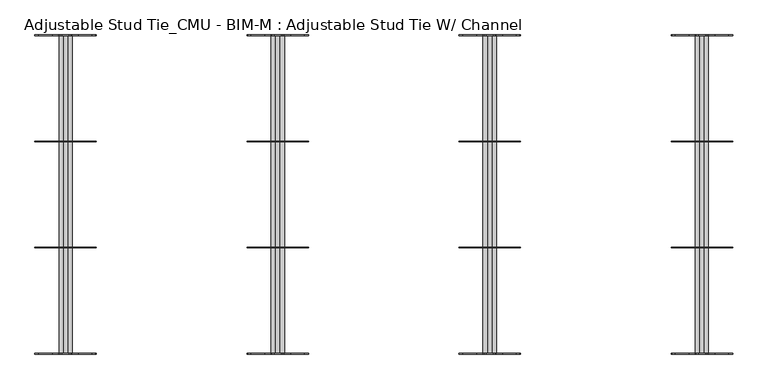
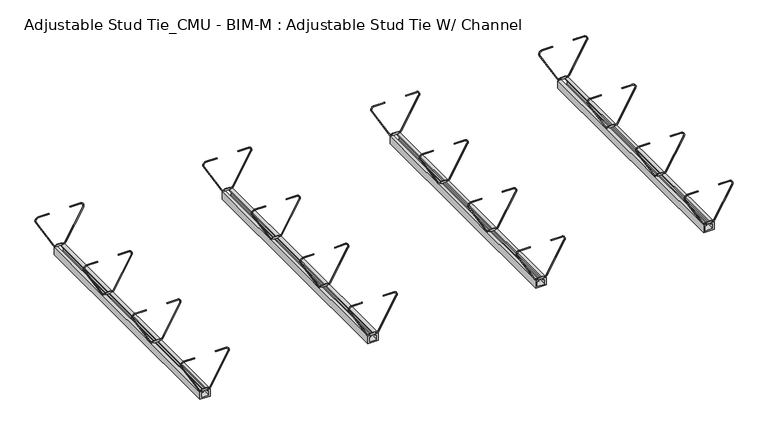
"""IFC4 building model written with IfcOpenShell, lengths in millimetres: proxy geometry, Adjustable Stud Tie_CMU - BIM-M : Adjustable Stud Tie W/ Channel."""

from ifc_helpers import new_model, si_unit, point, frame, frame_2d, origin, place, context, project, spatial, polyline, circle_curve, trimmed, segment, composite_curve, outline, extrude, source, transform, mapped, element, save


def adjustable_stud_tie_cmu_bim_m_adjustable_stud_tie_w_channel_bcef0d92(model_context):
    return source(origin(), model_context, "Body", "SweptSolid", [
        extrude(outline(composite_curve([segment(polyline([(-115.6954737, 2834.1080064), (-115.6954737, 2838.45), (-117.475, 2838.45), (-117.475, 2851.15), (-115.6954737, 2851.15), (-115.6954737, 2855.4919936)]), True, "CONTINUOUS"), segment(trimmed(circle_curve(frame_2d((-111.2621335, 2855.3975194)), 4.4343467), [point((-115.6954737, 2855.4919936))], [point((-113.4793069, 2859.2377763))], False, "CARTESIAN"), True, "CONTINUOUS"), segment(polyline([(-113.4793069, 2859.2377763), (-38.3089403, 2902.6374077)]), True, "CONTINUOUS"), segment(trimmed(circle_curve(frame_2d((-34.2420568, 2895.5933588)), 8.133767), [point((-38.3089403, 2902.6374077))], [point((-26.1197927, 2896.0257847))], False, "CARTESIAN"), True, "CONTINUOUS"), segment(polyline([(-26.1197927, 2896.0257847), (-26.1197927, 2870.2), (-27.7072927, 2870.2), (-27.7072927, 2895.9812638)]), True, "CONTINUOUS"), segment(trimmed(circle_curve(frame_2d((-34.2420568, 2895.5933588)), 6.546267), [point((-27.7072927, 2895.9812638))], [point((-37.5151903, 2901.2625923))], True, "CARTESIAN"), True, "CONTINUOUS"), segment(polyline([(-37.5151903, 2901.2625923), (-112.6855569, 2857.862961)]), True, "CONTINUOUS"), segment(trimmed(circle_curve(frame_2d((-111.2621335, 2855.3975194)), 2.8468467), [point((-112.6855569, 2857.862961))], [point((-114.1079737, 2855.4732143))], True, "CARTESIAN"), True, "CONTINUOUS"), segment(polyline([(-114.1079737, 2855.4732143), (-114.1079737, 2851.15), (-112.7125, 2851.15), (-112.7125, 2838.45), (-114.1079737, 2838.45), (-114.1079737, 2834.1267857)]), True, "CONTINUOUS"), segment(trimmed(circle_curve(frame_2d((-111.2621335, 2834.2024806)), 2.8468467), [point((-114.1079737, 2834.1267857))], [point((-112.6855569, 2831.737039))], True, "CARTESIAN"), True, "CONTINUOUS"), segment(polyline([(-112.6855569, 2831.737039), (-37.5151903, 2788.3374077)]), True, "CONTINUOUS"), segment(trimmed(circle_curve(frame_2d((-34.2420568, 2794.0066412)), 6.546267), [point((-37.5151903, 2788.3374077))], [point((-27.7072927, 2793.6187362))], True, "CARTESIAN"), True, "CONTINUOUS"), segment(polyline([(-27.7072927, 2793.6187362), (-27.7072927, 2819.4), (-26.1197927, 2819.4), (-26.1197927, 2793.5742153)]), True, "CONTINUOUS"), segment(trimmed(circle_curve(frame_2d((-34.2420568, 2794.0066412)), 8.133767), [point((-26.1197927, 2793.5742153))], [point((-38.3089403, 2786.9625923))], False, "CARTESIAN"), True, "CONTINUOUS"), segment(polyline([(-38.3089403, 2786.9625923), (-113.4793069, 2830.3622237)]), True, "CONTINUOUS"), segment(trimmed(circle_curve(frame_2d((-111.2621335, 2834.2024806)), 4.4343467), [point((-113.4793069, 2830.3622237))], [point((-115.6954737, 2834.1080064))], False, "CARTESIAN"), True, "CONTINUOUS")], self_intersect=False)), frame((0.0, 609.6, 0.0), z_axis=(0.0, 1.0, 0.0), x_axis=(0.0, 0.0, 1.0)), (0.0, 0.0, 1.0), 1.5875),
        extrude(outline(composite_curve([segment(polyline([(-115.6954737, 2834.1080064), (-115.6954737, 2838.45), (-117.475, 2838.45), (-117.475, 2851.15), (-115.6954737, 2851.15), (-115.6954737, 2855.4919936)]), True, "CONTINUOUS"), segment(trimmed(circle_curve(frame_2d((-111.2621335, 2855.3975194)), 4.4343467), [point((-115.6954737, 2855.4919936))], [point((-113.4793069, 2859.2377763))], False, "CARTESIAN"), True, "CONTINUOUS"), segment(polyline([(-113.4793069, 2859.2377763), (-38.3089403, 2902.6374077)]), True, "CONTINUOUS"), segment(trimmed(circle_curve(frame_2d((-34.2420568, 2895.5933588)), 8.133767), [point((-38.3089403, 2902.6374077))], [point((-26.1197927, 2896.0257847))], False, "CARTESIAN"), True, "CONTINUOUS"), segment(polyline([(-26.1197927, 2896.0257847), (-26.1197927, 2870.2), (-27.7072927, 2870.2), (-27.7072927, 2895.9812638)]), True, "CONTINUOUS"), segment(trimmed(circle_curve(frame_2d((-34.2420568, 2895.5933588)), 6.546267), [point((-27.7072927, 2895.9812638))], [point((-37.5151903, 2901.2625923))], True, "CARTESIAN"), True, "CONTINUOUS"), segment(polyline([(-37.5151903, 2901.2625923), (-112.6855569, 2857.862961)]), True, "CONTINUOUS"), segment(trimmed(circle_curve(frame_2d((-111.2621335, 2855.3975194)), 2.8468467), [point((-112.6855569, 2857.862961))], [point((-114.1079737, 2855.4732143))], True, "CARTESIAN"), True, "CONTINUOUS"), segment(polyline([(-114.1079737, 2855.4732143), (-114.1079737, 2851.15), (-112.7125, 2851.15), (-112.7125, 2838.45), (-114.1079737, 2838.45), (-114.1079737, 2834.1267857)]), True, "CONTINUOUS"), segment(trimmed(circle_curve(frame_2d((-111.2621335, 2834.2024806)), 2.8468467), [point((-114.1079737, 2834.1267857))], [point((-112.6855569, 2831.737039))], True, "CARTESIAN"), True, "CONTINUOUS"), segment(polyline([(-112.6855569, 2831.737039), (-37.5151903, 2788.3374077)]), True, "CONTINUOUS"), segment(trimmed(circle_curve(frame_2d((-34.2420568, 2794.0066412)), 6.546267), [point((-37.5151903, 2788.3374077))], [point((-27.7072927, 2793.6187362))], True, "CARTESIAN"), True, "CONTINUOUS"), segment(polyline([(-27.7072927, 2793.6187362), (-27.7072927, 2819.4), (-26.1197927, 2819.4), (-26.1197927, 2793.5742153)]), True, "CONTINUOUS"), segment(trimmed(circle_curve(frame_2d((-34.2420568, 2794.0066412)), 8.133767), [point((-26.1197927, 2793.5742153))], [point((-38.3089403, 2786.9625923))], False, "CARTESIAN"), True, "CONTINUOUS"), segment(polyline([(-38.3089403, 2786.9625923), (-113.4793069, 2830.3622237)]), True, "CONTINUOUS"), segment(trimmed(circle_curve(frame_2d((-111.2621335, 2834.2024806)), 4.4343467), [point((-113.4793069, 2830.3622237))], [point((-115.6954737, 2834.1080064))], False, "CARTESIAN"), True, "CONTINUOUS")], self_intersect=False)), frame((0.0, 406.4, 0.0), z_axis=(0.0, 1.0, 0.0), x_axis=(0.0, 0.0, 1.0)), (0.0, 0.0, 1.0), 1.5875),
        extrude(outline(composite_curve([segment(polyline([(-115.6954737, 2834.1080064), (-115.6954737, 2838.45), (-117.475, 2838.45), (-117.475, 2851.15), (-115.6954737, 2851.15), (-115.6954737, 2855.4919936)]), True, "CONTINUOUS"), segment(trimmed(circle_curve(frame_2d((-111.2621335, 2855.3975194)), 4.4343467), [point((-115.6954737, 2855.4919936))], [point((-113.4793069, 2859.2377763))], False, "CARTESIAN"), True, "CONTINUOUS"), segment(polyline([(-113.4793069, 2859.2377763), (-38.3089403, 2902.6374077)]), True, "CONTINUOUS"), segment(trimmed(circle_curve(frame_2d((-34.2420568, 2895.5933588)), 8.133767), [point((-38.3089403, 2902.6374077))], [point((-26.1197927, 2896.0257847))], False, "CARTESIAN"), True, "CONTINUOUS"), segment(polyline([(-26.1197927, 2896.0257847), (-26.1197927, 2870.2), (-27.7072927, 2870.2), (-27.7072927, 2895.9812638)]), True, "CONTINUOUS"), segment(trimmed(circle_curve(frame_2d((-34.2420568, 2895.5933588)), 6.546267), [point((-27.7072927, 2895.9812638))], [point((-37.5151903, 2901.2625923))], True, "CARTESIAN"), True, "CONTINUOUS"), segment(polyline([(-37.5151903, 2901.2625923), (-112.6855569, 2857.862961)]), True, "CONTINUOUS"), segment(trimmed(circle_curve(frame_2d((-111.2621335, 2855.3975194)), 2.8468467), [point((-112.6855569, 2857.862961))], [point((-114.1079737, 2855.4732143))], True, "CARTESIAN"), True, "CONTINUOUS"), segment(polyline([(-114.1079737, 2855.4732143), (-114.1079737, 2851.15), (-112.7125, 2851.15), (-112.7125, 2838.45), (-114.1079737, 2838.45), (-114.1079737, 2834.1267857)]), True, "CONTINUOUS"), segment(trimmed(circle_curve(frame_2d((-111.2621335, 2834.2024806)), 2.8468467), [point((-114.1079737, 2834.1267857))], [point((-112.6855569, 2831.737039))], True, "CARTESIAN"), True, "CONTINUOUS"), segment(polyline([(-112.6855569, 2831.737039), (-37.5151903, 2788.3374077)]), True, "CONTINUOUS"), segment(trimmed(circle_curve(frame_2d((-34.2420568, 2794.0066412)), 6.546267), [point((-37.5151903, 2788.3374077))], [point((-27.7072927, 2793.6187362))], True, "CARTESIAN"), True, "CONTINUOUS"), segment(polyline([(-27.7072927, 2793.6187362), (-27.7072927, 2819.4), (-26.1197927, 2819.4), (-26.1197927, 2793.5742153)]), True, "CONTINUOUS"), segment(trimmed(circle_curve(frame_2d((-34.2420568, 2794.0066412)), 8.133767), [point((-26.1197927, 2793.5742153))], [point((-38.3089403, 2786.9625923))], False, "CARTESIAN"), True, "CONTINUOUS"), segment(polyline([(-38.3089403, 2786.9625923), (-113.4793069, 2830.3622237)]), True, "CONTINUOUS"), segment(trimmed(circle_curve(frame_2d((-111.2621335, 2834.2024806)), 4.4343467), [point((-113.4793069, 2830.3622237))], [point((-115.6954737, 2834.1080064))], False, "CARTESIAN"), True, "CONTINUOUS")], self_intersect=False)), frame((0.0, 203.2, 0.0), z_axis=(0.0, 1.0, 0.0), x_axis=(0.0, 0.0, 1.0)), (0.0, 0.0, 1.0), 1.5875),
        extrude(outline(composite_curve([segment(polyline([(-115.6954737, 2834.1080064), (-115.6954737, 2838.45), (-117.475, 2838.45), (-117.475, 2851.15), (-115.6954737, 2851.15), (-115.6954737, 2855.4919936)]), True, "CONTINUOUS"), segment(trimmed(circle_curve(frame_2d((-111.2621335, 2855.3975194)), 4.4343467), [point((-115.6954737, 2855.4919936))], [point((-113.4793069, 2859.2377763))], False, "CARTESIAN"), True, "CONTINUOUS"), segment(polyline([(-113.4793069, 2859.2377763), (-38.3089403, 2902.6374077)]), True, "CONTINUOUS"), segment(trimmed(circle_curve(frame_2d((-34.2420568, 2895.5933588)), 8.133767), [point((-38.3089403, 2902.6374077))], [point((-26.1197927, 2896.0257847))], False, "CARTESIAN"), True, "CONTINUOUS"), segment(polyline([(-26.1197927, 2896.0257847), (-26.1197927, 2870.2), (-27.7072927, 2870.2), (-27.7072927, 2895.9812638)]), True, "CONTINUOUS"), segment(trimmed(circle_curve(frame_2d((-34.2420568, 2895.5933588)), 6.546267), [point((-27.7072927, 2895.9812638))], [point((-37.5151903, 2901.2625923))], True, "CARTESIAN"), True, "CONTINUOUS"), segment(polyline([(-37.5151903, 2901.2625923), (-112.6855569, 2857.862961)]), True, "CONTINUOUS"), segment(trimmed(circle_curve(frame_2d((-111.2621335, 2855.3975194)), 2.8468467), [point((-112.6855569, 2857.862961))], [point((-114.1079737, 2855.4732143))], True, "CARTESIAN"), True, "CONTINUOUS"), segment(polyline([(-114.1079737, 2855.4732143), (-114.1079737, 2851.15), (-112.7125, 2851.15), (-112.7125, 2838.45), (-114.1079737, 2838.45), (-114.1079737, 2834.1267857)]), True, "CONTINUOUS"), segment(trimmed(circle_curve(frame_2d((-111.2621335, 2834.2024806)), 2.8468467), [point((-114.1079737, 2834.1267857))], [point((-112.6855569, 2831.737039))], True, "CARTESIAN"), True, "CONTINUOUS"), segment(polyline([(-112.6855569, 2831.737039), (-37.5151903, 2788.3374077)]), True, "CONTINUOUS"), segment(trimmed(circle_curve(frame_2d((-34.2420568, 2794.0066412)), 6.546267), [point((-37.5151903, 2788.3374077))], [point((-27.7072927, 2793.6187362))], True, "CARTESIAN"), True, "CONTINUOUS"), segment(polyline([(-27.7072927, 2793.6187362), (-27.7072927, 2819.4), (-26.1197927, 2819.4), (-26.1197927, 2793.5742153)]), True, "CONTINUOUS"), segment(trimmed(circle_curve(frame_2d((-34.2420568, 2794.0066412)), 8.133767), [point((-26.1197927, 2793.5742153))], [point((-38.3089403, 2786.9625923))], False, "CARTESIAN"), True, "CONTINUOUS"), segment(polyline([(-38.3089403, 2786.9625923), (-113.4793069, 2830.3622237)]), True, "CONTINUOUS"), segment(trimmed(circle_curve(frame_2d((-111.2621335, 2834.2024806)), 4.4343467), [point((-113.4793069, 2830.3622237))], [point((-115.6954737, 2834.1080064))], False, "CARTESIAN"), True, "CONTINUOUS")], self_intersect=False)), frame((0.0, 0.0, 0.0), z_axis=(0.0, 1.0, 0.0), x_axis=(0.0, 0.0, 1.0)), (0.0, 0.0, 1.0), 1.5875),
        extrude(outline(polyline([(-136.525, 2857.5), (-117.475, 2857.5), (-117.475, 2849.5669306), (-120.65, 2849.5669306), (-120.65, 2854.325), (-133.35, 2854.325), (-133.35, 2835.275), (-120.65, 2835.275), (-120.65, 2840.0330694), (-117.475, 2840.0330694), (-117.475, 2832.1), (-136.525, 2832.1), (-136.525, 2857.5)])), frame((0.0, 0.0, 0.0), z_axis=(0.0, 1.0, 0.0), x_axis=(0.0, 0.0, 1.0)), (0.0, 0.0, 1.0), 610.39375),
        extrude(outline(composite_curve([segment(polyline([(-115.6954737, 2427.7080064), (-115.6954737, 2432.05), (-117.475, 2432.05), (-117.475, 2444.75), (-115.6954737, 2444.75), (-115.6954737, 2449.0919936)]), True, "CONTINUOUS"), segment(trimmed(circle_curve(frame_2d((-111.2621335, 2448.9975194)), 4.4343467), [point((-115.6954737, 2449.0919936))], [point((-113.4793069, 2452.8377763))], False, "CARTESIAN"), True, "CONTINUOUS"), segment(polyline([(-113.4793069, 2452.8377763), (-38.3089403, 2496.2374077)]), True, "CONTINUOUS"), segment(trimmed(circle_curve(frame_2d((-34.2420568, 2489.1933588)), 8.133767), [point((-38.3089403, 2496.2374077))], [point((-26.1197927, 2489.6257847))], False, "CARTESIAN"), True, "CONTINUOUS"), segment(polyline([(-26.1197927, 2489.6257847), (-26.1197927, 2463.8), (-27.7072927, 2463.8), (-27.7072927, 2489.5812638)]), True, "CONTINUOUS"), segment(trimmed(circle_curve(frame_2d((-34.2420568, 2489.1933588)), 6.546267), [point((-27.7072927, 2489.5812638))], [point((-37.5151903, 2494.8625923))], True, "CARTESIAN"), True, "CONTINUOUS"), segment(polyline([(-37.5151903, 2494.8625923), (-112.6855569, 2451.462961)]), True, "CONTINUOUS"), segment(trimmed(circle_curve(frame_2d((-111.2621335, 2448.9975194)), 2.8468467), [point((-112.6855569, 2451.462961))], [point((-114.1079737, 2449.0732143))], True, "CARTESIAN"), True, "CONTINUOUS"), segment(polyline([(-114.1079737, 2449.0732143), (-114.1079737, 2444.75), (-112.7125, 2444.75), (-112.7125, 2432.05), (-114.1079737, 2432.05), (-114.1079737, 2427.7267857)]), True, "CONTINUOUS"), segment(trimmed(circle_curve(frame_2d((-111.2621335, 2427.8024806)), 2.8468467), [point((-114.1079737, 2427.7267857))], [point((-112.6855569, 2425.337039))], True, "CARTESIAN"), True, "CONTINUOUS"), segment(polyline([(-112.6855569, 2425.337039), (-37.5151903, 2381.9374077)]), True, "CONTINUOUS"), segment(trimmed(circle_curve(frame_2d((-34.2420568, 2387.6066412)), 6.546267), [point((-37.5151903, 2381.9374077))], [point((-27.7072927, 2387.2187362))], True, "CARTESIAN"), True, "CONTINUOUS"), segment(polyline([(-27.7072927, 2387.2187362), (-27.7072927, 2413.0), (-26.1197927, 2413.0), (-26.1197927, 2387.1742153)]), True, "CONTINUOUS"), segment(trimmed(circle_curve(frame_2d((-34.2420568, 2387.6066412)), 8.133767), [point((-26.1197927, 2387.1742153))], [point((-38.3089403, 2380.5625923))], False, "CARTESIAN"), True, "CONTINUOUS"), segment(polyline([(-38.3089403, 2380.5625923), (-113.4793069, 2423.9622237)]), True, "CONTINUOUS"), segment(trimmed(circle_curve(frame_2d((-111.2621335, 2427.8024806)), 4.4343467), [point((-113.4793069, 2423.9622237))], [point((-115.6954737, 2427.7080064))], False, "CARTESIAN"), True, "CONTINUOUS")], self_intersect=False)), frame((0.0, 609.6, 0.0), z_axis=(0.0, 1.0, 0.0), x_axis=(0.0, 0.0, 1.0)), (0.0, 0.0, 1.0), 1.5875),
        extrude(outline(composite_curve([segment(polyline([(-115.6954737, 2427.7080064), (-115.6954737, 2432.05), (-117.475, 2432.05), (-117.475, 2444.75), (-115.6954737, 2444.75), (-115.6954737, 2449.0919936)]), True, "CONTINUOUS"), segment(trimmed(circle_curve(frame_2d((-111.2621335, 2448.9975194)), 4.4343467), [point((-115.6954737, 2449.0919936))], [point((-113.4793069, 2452.8377763))], False, "CARTESIAN"), True, "CONTINUOUS"), segment(polyline([(-113.4793069, 2452.8377763), (-38.3089403, 2496.2374077)]), True, "CONTINUOUS"), segment(trimmed(circle_curve(frame_2d((-34.2420568, 2489.1933588)), 8.133767), [point((-38.3089403, 2496.2374077))], [point((-26.1197927, 2489.6257847))], False, "CARTESIAN"), True, "CONTINUOUS"), segment(polyline([(-26.1197927, 2489.6257847), (-26.1197927, 2463.8), (-27.7072927, 2463.8), (-27.7072927, 2489.5812638)]), True, "CONTINUOUS"), segment(trimmed(circle_curve(frame_2d((-34.2420568, 2489.1933588)), 6.546267), [point((-27.7072927, 2489.5812638))], [point((-37.5151903, 2494.8625923))], True, "CARTESIAN"), True, "CONTINUOUS"), segment(polyline([(-37.5151903, 2494.8625923), (-112.6855569, 2451.462961)]), True, "CONTINUOUS"), segment(trimmed(circle_curve(frame_2d((-111.2621335, 2448.9975194)), 2.8468467), [point((-112.6855569, 2451.462961))], [point((-114.1079737, 2449.0732143))], True, "CARTESIAN"), True, "CONTINUOUS"), segment(polyline([(-114.1079737, 2449.0732143), (-114.1079737, 2444.75), (-112.7125, 2444.75), (-112.7125, 2432.05), (-114.1079737, 2432.05), (-114.1079737, 2427.7267857)]), True, "CONTINUOUS"), segment(trimmed(circle_curve(frame_2d((-111.2621335, 2427.8024806)), 2.8468467), [point((-114.1079737, 2427.7267857))], [point((-112.6855569, 2425.337039))], True, "CARTESIAN"), True, "CONTINUOUS"), segment(polyline([(-112.6855569, 2425.337039), (-37.5151903, 2381.9374077)]), True, "CONTINUOUS"), segment(trimmed(circle_curve(frame_2d((-34.2420568, 2387.6066412)), 6.546267), [point((-37.5151903, 2381.9374077))], [point((-27.7072927, 2387.2187362))], True, "CARTESIAN"), True, "CONTINUOUS"), segment(polyline([(-27.7072927, 2387.2187362), (-27.7072927, 2413.0), (-26.1197927, 2413.0), (-26.1197927, 2387.1742153)]), True, "CONTINUOUS"), segment(trimmed(circle_curve(frame_2d((-34.2420568, 2387.6066412)), 8.133767), [point((-26.1197927, 2387.1742153))], [point((-38.3089403, 2380.5625923))], False, "CARTESIAN"), True, "CONTINUOUS"), segment(polyline([(-38.3089403, 2380.5625923), (-113.4793069, 2423.9622237)]), True, "CONTINUOUS"), segment(trimmed(circle_curve(frame_2d((-111.2621335, 2427.8024806)), 4.4343467), [point((-113.4793069, 2423.9622237))], [point((-115.6954737, 2427.7080064))], False, "CARTESIAN"), True, "CONTINUOUS")], self_intersect=False)), frame((0.0, 406.4, 0.0), z_axis=(0.0, 1.0, 0.0), x_axis=(0.0, 0.0, 1.0)), (0.0, 0.0, 1.0), 1.5875),
        extrude(outline(composite_curve([segment(polyline([(-115.6954737, 2427.7080064), (-115.6954737, 2432.05), (-117.475, 2432.05), (-117.475, 2444.75), (-115.6954737, 2444.75), (-115.6954737, 2449.0919936)]), True, "CONTINUOUS"), segment(trimmed(circle_curve(frame_2d((-111.2621335, 2448.9975194)), 4.4343467), [point((-115.6954737, 2449.0919936))], [point((-113.4793069, 2452.8377763))], False, "CARTESIAN"), True, "CONTINUOUS"), segment(polyline([(-113.4793069, 2452.8377763), (-38.3089403, 2496.2374077)]), True, "CONTINUOUS"), segment(trimmed(circle_curve(frame_2d((-34.2420568, 2489.1933588)), 8.133767), [point((-38.3089403, 2496.2374077))], [point((-26.1197927, 2489.6257847))], False, "CARTESIAN"), True, "CONTINUOUS"), segment(polyline([(-26.1197927, 2489.6257847), (-26.1197927, 2463.8), (-27.7072927, 2463.8), (-27.7072927, 2489.5812638)]), True, "CONTINUOUS"), segment(trimmed(circle_curve(frame_2d((-34.2420568, 2489.1933588)), 6.546267), [point((-27.7072927, 2489.5812638))], [point((-37.5151903, 2494.8625923))], True, "CARTESIAN"), True, "CONTINUOUS"), segment(polyline([(-37.5151903, 2494.8625923), (-112.6855569, 2451.462961)]), True, "CONTINUOUS"), segment(trimmed(circle_curve(frame_2d((-111.2621335, 2448.9975194)), 2.8468467), [point((-112.6855569, 2451.462961))], [point((-114.1079737, 2449.0732143))], True, "CARTESIAN"), True, "CONTINUOUS"), segment(polyline([(-114.1079737, 2449.0732143), (-114.1079737, 2444.75), (-112.7125, 2444.75), (-112.7125, 2432.05), (-114.1079737, 2432.05), (-114.1079737, 2427.7267857)]), True, "CONTINUOUS"), segment(trimmed(circle_curve(frame_2d((-111.2621335, 2427.8024806)), 2.8468467), [point((-114.1079737, 2427.7267857))], [point((-112.6855569, 2425.337039))], True, "CARTESIAN"), True, "CONTINUOUS"), segment(polyline([(-112.6855569, 2425.337039), (-37.5151903, 2381.9374077)]), True, "CONTINUOUS"), segment(trimmed(circle_curve(frame_2d((-34.2420568, 2387.6066412)), 6.546267), [point((-37.5151903, 2381.9374077))], [point((-27.7072927, 2387.2187362))], True, "CARTESIAN"), True, "CONTINUOUS"), segment(polyline([(-27.7072927, 2387.2187362), (-27.7072927, 2413.0), (-26.1197927, 2413.0), (-26.1197927, 2387.1742153)]), True, "CONTINUOUS"), segment(trimmed(circle_curve(frame_2d((-34.2420568, 2387.6066412)), 8.133767), [point((-26.1197927, 2387.1742153))], [point((-38.3089403, 2380.5625923))], False, "CARTESIAN"), True, "CONTINUOUS"), segment(polyline([(-38.3089403, 2380.5625923), (-113.4793069, 2423.9622237)]), True, "CONTINUOUS"), segment(trimmed(circle_curve(frame_2d((-111.2621335, 2427.8024806)), 4.4343467), [point((-113.4793069, 2423.9622237))], [point((-115.6954737, 2427.7080064))], False, "CARTESIAN"), True, "CONTINUOUS")], self_intersect=False)), frame((0.0, 203.2, 0.0), z_axis=(0.0, 1.0, 0.0), x_axis=(0.0, 0.0, 1.0)), (0.0, 0.0, 1.0), 1.5875),
        extrude(outline(composite_curve([segment(polyline([(-115.6954737, 2427.7080064), (-115.6954737, 2432.05), (-117.475, 2432.05), (-117.475, 2444.75), (-115.6954737, 2444.75), (-115.6954737, 2449.0919936)]), True, "CONTINUOUS"), segment(trimmed(circle_curve(frame_2d((-111.2621335, 2448.9975194)), 4.4343467), [point((-115.6954737, 2449.0919936))], [point((-113.4793069, 2452.8377763))], False, "CARTESIAN"), True, "CONTINUOUS"), segment(polyline([(-113.4793069, 2452.8377763), (-38.3089403, 2496.2374077)]), True, "CONTINUOUS"), segment(trimmed(circle_curve(frame_2d((-34.2420568, 2489.1933588)), 8.133767), [point((-38.3089403, 2496.2374077))], [point((-26.1197927, 2489.6257847))], False, "CARTESIAN"), True, "CONTINUOUS"), segment(polyline([(-26.1197927, 2489.6257847), (-26.1197927, 2463.8), (-27.7072927, 2463.8), (-27.7072927, 2489.5812638)]), True, "CONTINUOUS"), segment(trimmed(circle_curve(frame_2d((-34.2420568, 2489.1933588)), 6.546267), [point((-27.7072927, 2489.5812638))], [point((-37.5151903, 2494.8625923))], True, "CARTESIAN"), True, "CONTINUOUS"), segment(polyline([(-37.5151903, 2494.8625923), (-112.6855569, 2451.462961)]), True, "CONTINUOUS"), segment(trimmed(circle_curve(frame_2d((-111.2621335, 2448.9975194)), 2.8468467), [point((-112.6855569, 2451.462961))], [point((-114.1079737, 2449.0732143))], True, "CARTESIAN"), True, "CONTINUOUS"), segment(polyline([(-114.1079737, 2449.0732143), (-114.1079737, 2444.75), (-112.7125, 2444.75), (-112.7125, 2432.05), (-114.1079737, 2432.05), (-114.1079737, 2427.7267857)]), True, "CONTINUOUS"), segment(trimmed(circle_curve(frame_2d((-111.2621335, 2427.8024806)), 2.8468467), [point((-114.1079737, 2427.7267857))], [point((-112.6855569, 2425.337039))], True, "CARTESIAN"), True, "CONTINUOUS"), segment(polyline([(-112.6855569, 2425.337039), (-37.5151903, 2381.9374077)]), True, "CONTINUOUS"), segment(trimmed(circle_curve(frame_2d((-34.2420568, 2387.6066412)), 6.546267), [point((-37.5151903, 2381.9374077))], [point((-27.7072927, 2387.2187362))], True, "CARTESIAN"), True, "CONTINUOUS"), segment(polyline([(-27.7072927, 2387.2187362), (-27.7072927, 2413.0), (-26.1197927, 2413.0), (-26.1197927, 2387.1742153)]), True, "CONTINUOUS"), segment(trimmed(circle_curve(frame_2d((-34.2420568, 2387.6066412)), 8.133767), [point((-26.1197927, 2387.1742153))], [point((-38.3089403, 2380.5625923))], False, "CARTESIAN"), True, "CONTINUOUS"), segment(polyline([(-38.3089403, 2380.5625923), (-113.4793069, 2423.9622237)]), True, "CONTINUOUS"), segment(trimmed(circle_curve(frame_2d((-111.2621335, 2427.8024806)), 4.4343467), [point((-113.4793069, 2423.9622237))], [point((-115.6954737, 2427.7080064))], False, "CARTESIAN"), True, "CONTINUOUS")], self_intersect=False)), frame((0.0, 0.0, 0.0), z_axis=(0.0, 1.0, 0.0), x_axis=(0.0, 0.0, 1.0)), (0.0, 0.0, 1.0), 1.5875),
        extrude(outline(polyline([(-136.525, 2451.1), (-117.475, 2451.1), (-117.475, 2443.1669306), (-120.65, 2443.1669306), (-120.65, 2447.925), (-133.35, 2447.925), (-133.35, 2428.875), (-120.65, 2428.875), (-120.65, 2433.6330694), (-117.475, 2433.6330694), (-117.475, 2425.7), (-136.525, 2425.7), (-136.525, 2451.1)])), frame((0.0, 0.0, 0.0), z_axis=(0.0, 1.0, 0.0), x_axis=(0.0, 0.0, 1.0)), (0.0, 0.0, 1.0), 610.39375),
        extrude(outline(composite_curve([segment(polyline([(-115.6954737, 2021.3080064), (-115.6954737, 2025.65), (-117.475, 2025.65), (-117.475, 2038.35), (-115.6954737, 2038.35), (-115.6954737, 2042.6919936)]), True, "CONTINUOUS"), segment(trimmed(circle_curve(frame_2d((-111.2621335, 2042.5975194)), 4.4343467), [point((-115.6954737, 2042.6919936))], [point((-113.4793069, 2046.4377763))], False, "CARTESIAN"), True, "CONTINUOUS"), segment(polyline([(-113.4793069, 2046.4377763), (-38.3089403, 2089.8374077)]), True, "CONTINUOUS"), segment(trimmed(circle_curve(frame_2d((-34.2420568, 2082.7933588)), 8.133767), [point((-38.3089403, 2089.8374077))], [point((-26.1197927, 2083.2257847))], False, "CARTESIAN"), True, "CONTINUOUS"), segment(polyline([(-26.1197927, 2083.2257847), (-26.1197927, 2057.4), (-27.7072927, 2057.4), (-27.7072927, 2083.1812638)]), True, "CONTINUOUS"), segment(trimmed(circle_curve(frame_2d((-34.2420568, 2082.7933588)), 6.546267), [point((-27.7072927, 2083.1812638))], [point((-37.5151903, 2088.4625923))], True, "CARTESIAN"), True, "CONTINUOUS"), segment(polyline([(-37.5151903, 2088.4625923), (-112.6855569, 2045.062961)]), True, "CONTINUOUS"), segment(trimmed(circle_curve(frame_2d((-111.2621335, 2042.5975194)), 2.8468467), [point((-112.6855569, 2045.062961))], [point((-114.1079737, 2042.6732143))], True, "CARTESIAN"), True, "CONTINUOUS"), segment(polyline([(-114.1079737, 2042.6732143), (-114.1079737, 2038.35), (-112.7125, 2038.35), (-112.7125, 2025.65), (-114.1079737, 2025.65), (-114.1079737, 2021.3267857)]), True, "CONTINUOUS"), segment(trimmed(circle_curve(frame_2d((-111.2621335, 2021.4024806)), 2.8468467), [point((-114.1079737, 2021.3267857))], [point((-112.6855569, 2018.937039))], True, "CARTESIAN"), True, "CONTINUOUS"), segment(polyline([(-112.6855569, 2018.937039), (-37.5151903, 1975.5374077)]), True, "CONTINUOUS"), segment(trimmed(circle_curve(frame_2d((-34.2420568, 1981.2066412)), 6.546267), [point((-37.5151903, 1975.5374077))], [point((-27.7072927, 1980.8187362))], True, "CARTESIAN"), True, "CONTINUOUS"), segment(polyline([(-27.7072927, 1980.8187362), (-27.7072927, 2006.6), (-26.1197927, 2006.6), (-26.1197927, 1980.7742153)]), True, "CONTINUOUS"), segment(trimmed(circle_curve(frame_2d((-34.2420568, 1981.2066412)), 8.133767), [point((-26.1197927, 1980.7742153))], [point((-38.3089403, 1974.1625923))], False, "CARTESIAN"), True, "CONTINUOUS"), segment(polyline([(-38.3089403, 1974.1625923), (-113.4793069, 2017.5622237)]), True, "CONTINUOUS"), segment(trimmed(circle_curve(frame_2d((-111.2621335, 2021.4024806)), 4.4343467), [point((-113.4793069, 2017.5622237))], [point((-115.6954737, 2021.3080064))], False, "CARTESIAN"), True, "CONTINUOUS")], self_intersect=False)), frame((0.0, 609.6, 0.0), z_axis=(0.0, 1.0, 0.0), x_axis=(0.0, 0.0, 1.0)), (0.0, 0.0, 1.0), 1.5875),
        extrude(outline(composite_curve([segment(polyline([(-115.6954737, 2021.3080064), (-115.6954737, 2025.65), (-117.475, 2025.65), (-117.475, 2038.35), (-115.6954737, 2038.35), (-115.6954737, 2042.6919936)]), True, "CONTINUOUS"), segment(trimmed(circle_curve(frame_2d((-111.2621335, 2042.5975194)), 4.4343467), [point((-115.6954737, 2042.6919936))], [point((-113.4793069, 2046.4377763))], False, "CARTESIAN"), True, "CONTINUOUS"), segment(polyline([(-113.4793069, 2046.4377763), (-38.3089403, 2089.8374077)]), True, "CONTINUOUS"), segment(trimmed(circle_curve(frame_2d((-34.2420568, 2082.7933588)), 8.133767), [point((-38.3089403, 2089.8374077))], [point((-26.1197927, 2083.2257847))], False, "CARTESIAN"), True, "CONTINUOUS"), segment(polyline([(-26.1197927, 2083.2257847), (-26.1197927, 2057.4), (-27.7072927, 2057.4), (-27.7072927, 2083.1812638)]), True, "CONTINUOUS"), segment(trimmed(circle_curve(frame_2d((-34.2420568, 2082.7933588)), 6.546267), [point((-27.7072927, 2083.1812638))], [point((-37.5151903, 2088.4625923))], True, "CARTESIAN"), True, "CONTINUOUS"), segment(polyline([(-37.5151903, 2088.4625923), (-112.6855569, 2045.062961)]), True, "CONTINUOUS"), segment(trimmed(circle_curve(frame_2d((-111.2621335, 2042.5975194)), 2.8468467), [point((-112.6855569, 2045.062961))], [point((-114.1079737, 2042.6732143))], True, "CARTESIAN"), True, "CONTINUOUS"), segment(polyline([(-114.1079737, 2042.6732143), (-114.1079737, 2038.35), (-112.7125, 2038.35), (-112.7125, 2025.65), (-114.1079737, 2025.65), (-114.1079737, 2021.3267857)]), True, "CONTINUOUS"), segment(trimmed(circle_curve(frame_2d((-111.2621335, 2021.4024806)), 2.8468467), [point((-114.1079737, 2021.3267857))], [point((-112.6855569, 2018.937039))], True, "CARTESIAN"), True, "CONTINUOUS"), segment(polyline([(-112.6855569, 2018.937039), (-37.5151903, 1975.5374077)]), True, "CONTINUOUS"), segment(trimmed(circle_curve(frame_2d((-34.2420568, 1981.2066412)), 6.546267), [point((-37.5151903, 1975.5374077))], [point((-27.7072927, 1980.8187362))], True, "CARTESIAN"), True, "CONTINUOUS"), segment(polyline([(-27.7072927, 1980.8187362), (-27.7072927, 2006.6), (-26.1197927, 2006.6), (-26.1197927, 1980.7742153)]), True, "CONTINUOUS"), segment(trimmed(circle_curve(frame_2d((-34.2420568, 1981.2066412)), 8.133767), [point((-26.1197927, 1980.7742153))], [point((-38.3089403, 1974.1625923))], False, "CARTESIAN"), True, "CONTINUOUS"), segment(polyline([(-38.3089403, 1974.1625923), (-113.4793069, 2017.5622237)]), True, "CONTINUOUS"), segment(trimmed(circle_curve(frame_2d((-111.2621335, 2021.4024806)), 4.4343467), [point((-113.4793069, 2017.5622237))], [point((-115.6954737, 2021.3080064))], False, "CARTESIAN"), True, "CONTINUOUS")], self_intersect=False)), frame((0.0, 406.4, 0.0), z_axis=(0.0, 1.0, 0.0), x_axis=(0.0, 0.0, 1.0)), (0.0, 0.0, 1.0), 1.5875),
        extrude(outline(composite_curve([segment(polyline([(-115.6954737, 2021.3080064), (-115.6954737, 2025.65), (-117.475, 2025.65), (-117.475, 2038.35), (-115.6954737, 2038.35), (-115.6954737, 2042.6919936)]), True, "CONTINUOUS"), segment(trimmed(circle_curve(frame_2d((-111.2621335, 2042.5975194)), 4.4343467), [point((-115.6954737, 2042.6919936))], [point((-113.4793069, 2046.4377763))], False, "CARTESIAN"), True, "CONTINUOUS"), segment(polyline([(-113.4793069, 2046.4377763), (-38.3089403, 2089.8374077)]), True, "CONTINUOUS"), segment(trimmed(circle_curve(frame_2d((-34.2420568, 2082.7933588)), 8.133767), [point((-38.3089403, 2089.8374077))], [point((-26.1197927, 2083.2257847))], False, "CARTESIAN"), True, "CONTINUOUS"), segment(polyline([(-26.1197927, 2083.2257847), (-26.1197927, 2057.4), (-27.7072927, 2057.4), (-27.7072927, 2083.1812638)]), True, "CONTINUOUS"), segment(trimmed(circle_curve(frame_2d((-34.2420568, 2082.7933588)), 6.546267), [point((-27.7072927, 2083.1812638))], [point((-37.5151903, 2088.4625923))], True, "CARTESIAN"), True, "CONTINUOUS"), segment(polyline([(-37.5151903, 2088.4625923), (-112.6855569, 2045.062961)]), True, "CONTINUOUS"), segment(trimmed(circle_curve(frame_2d((-111.2621335, 2042.5975194)), 2.8468467), [point((-112.6855569, 2045.062961))], [point((-114.1079737, 2042.6732143))], True, "CARTESIAN"), True, "CONTINUOUS"), segment(polyline([(-114.1079737, 2042.6732143), (-114.1079737, 2038.35), (-112.7125, 2038.35), (-112.7125, 2025.65), (-114.1079737, 2025.65), (-114.1079737, 2021.3267857)]), True, "CONTINUOUS"), segment(trimmed(circle_curve(frame_2d((-111.2621335, 2021.4024806)), 2.8468467), [point((-114.1079737, 2021.3267857))], [point((-112.6855569, 2018.937039))], True, "CARTESIAN"), True, "CONTINUOUS"), segment(polyline([(-112.6855569, 2018.937039), (-37.5151903, 1975.5374077)]), True, "CONTINUOUS"), segment(trimmed(circle_curve(frame_2d((-34.2420568, 1981.2066412)), 6.546267), [point((-37.5151903, 1975.5374077))], [point((-27.7072927, 1980.8187362))], True, "CARTESIAN"), True, "CONTINUOUS"), segment(polyline([(-27.7072927, 1980.8187362), (-27.7072927, 2006.6), (-26.1197927, 2006.6), (-26.1197927, 1980.7742153)]), True, "CONTINUOUS"), segment(trimmed(circle_curve(frame_2d((-34.2420568, 1981.2066412)), 8.133767), [point((-26.1197927, 1980.7742153))], [point((-38.3089403, 1974.1625923))], False, "CARTESIAN"), True, "CONTINUOUS"), segment(polyline([(-38.3089403, 1974.1625923), (-113.4793069, 2017.5622237)]), True, "CONTINUOUS"), segment(trimmed(circle_curve(frame_2d((-111.2621335, 2021.4024806)), 4.4343467), [point((-113.4793069, 2017.5622237))], [point((-115.6954737, 2021.3080064))], False, "CARTESIAN"), True, "CONTINUOUS")], self_intersect=False)), frame((0.0, 203.2, 0.0), z_axis=(0.0, 1.0, 0.0), x_axis=(0.0, 0.0, 1.0)), (0.0, 0.0, 1.0), 1.5875),
        extrude(outline(composite_curve([segment(polyline([(-115.6954737, 2021.3080064), (-115.6954737, 2025.65), (-117.475, 2025.65), (-117.475, 2038.35), (-115.6954737, 2038.35), (-115.6954737, 2042.6919936)]), True, "CONTINUOUS"), segment(trimmed(circle_curve(frame_2d((-111.2621335, 2042.5975194)), 4.4343467), [point((-115.6954737, 2042.6919936))], [point((-113.4793069, 2046.4377763))], False, "CARTESIAN"), True, "CONTINUOUS"), segment(polyline([(-113.4793069, 2046.4377763), (-38.3089403, 2089.8374077)]), True, "CONTINUOUS"), segment(trimmed(circle_curve(frame_2d((-34.2420568, 2082.7933588)), 8.133767), [point((-38.3089403, 2089.8374077))], [point((-26.1197927, 2083.2257847))], False, "CARTESIAN"), True, "CONTINUOUS"), segment(polyline([(-26.1197927, 2083.2257847), (-26.1197927, 2057.4), (-27.7072927, 2057.4), (-27.7072927, 2083.1812638)]), True, "CONTINUOUS"), segment(trimmed(circle_curve(frame_2d((-34.2420568, 2082.7933588)), 6.546267), [point((-27.7072927, 2083.1812638))], [point((-37.5151903, 2088.4625923))], True, "CARTESIAN"), True, "CONTINUOUS"), segment(polyline([(-37.5151903, 2088.4625923), (-112.6855569, 2045.062961)]), True, "CONTINUOUS"), segment(trimmed(circle_curve(frame_2d((-111.2621335, 2042.5975194)), 2.8468467), [point((-112.6855569, 2045.062961))], [point((-114.1079737, 2042.6732143))], True, "CARTESIAN"), True, "CONTINUOUS"), segment(polyline([(-114.1079737, 2042.6732143), (-114.1079737, 2038.35), (-112.7125, 2038.35), (-112.7125, 2025.65), (-114.1079737, 2025.65), (-114.1079737, 2021.3267857)]), True, "CONTINUOUS"), segment(trimmed(circle_curve(frame_2d((-111.2621335, 2021.4024806)), 2.8468467), [point((-114.1079737, 2021.3267857))], [point((-112.6855569, 2018.937039))], True, "CARTESIAN"), True, "CONTINUOUS"), segment(polyline([(-112.6855569, 2018.937039), (-37.5151903, 1975.5374077)]), True, "CONTINUOUS"), segment(trimmed(circle_curve(frame_2d((-34.2420568, 1981.2066412)), 6.546267), [point((-37.5151903, 1975.5374077))], [point((-27.7072927, 1980.8187362))], True, "CARTESIAN"), True, "CONTINUOUS"), segment(polyline([(-27.7072927, 1980.8187362), (-27.7072927, 2006.6), (-26.1197927, 2006.6), (-26.1197927, 1980.7742153)]), True, "CONTINUOUS"), segment(trimmed(circle_curve(frame_2d((-34.2420568, 1981.2066412)), 8.133767), [point((-26.1197927, 1980.7742153))], [point((-38.3089403, 1974.1625923))], False, "CARTESIAN"), True, "CONTINUOUS"), segment(polyline([(-38.3089403, 1974.1625923), (-113.4793069, 2017.5622237)]), True, "CONTINUOUS"), segment(trimmed(circle_curve(frame_2d((-111.2621335, 2021.4024806)), 4.4343467), [point((-113.4793069, 2017.5622237))], [point((-115.6954737, 2021.3080064))], False, "CARTESIAN"), True, "CONTINUOUS")], self_intersect=False)), frame((0.0, 0.0, 0.0), z_axis=(0.0, 1.0, 0.0), x_axis=(0.0, 0.0, 1.0)), (0.0, 0.0, 1.0), 1.5875),
        extrude(outline(polyline([(-136.525, 2044.7), (-117.475, 2044.7), (-117.475, 2036.7669306), (-120.65, 2036.7669306), (-120.65, 2041.525), (-133.35, 2041.525), (-133.35, 2022.475), (-120.65, 2022.475), (-120.65, 2027.2330694), (-117.475, 2027.2330694), (-117.475, 2019.3), (-136.525, 2019.3), (-136.525, 2044.7)])), frame((0.0, 0.0, 0.0), z_axis=(0.0, 1.0, 0.0), x_axis=(0.0, 0.0, 1.0)), (0.0, 0.0, 1.0), 610.39375),
        extrude(outline(composite_curve([segment(polyline([(-115.6954737, 1614.9080064), (-115.6954737, 1619.25), (-117.475, 1619.25), (-117.475, 1631.95), (-115.6954737, 1631.95), (-115.6954737, 1636.2919936)]), True, "CONTINUOUS"), segment(trimmed(circle_curve(frame_2d((-111.2621335, 1636.1975194)), 4.4343467), [point((-115.6954737, 1636.2919936))], [point((-113.4793069, 1640.0377763))], False, "CARTESIAN"), True, "CONTINUOUS"), segment(polyline([(-113.4793069, 1640.0377763), (-38.3089403, 1683.4374077)]), True, "CONTINUOUS"), segment(trimmed(circle_curve(frame_2d((-34.2420568, 1676.3933588)), 8.133767), [point((-38.3089403, 1683.4374077))], [point((-26.1197927, 1676.8257847))], False, "CARTESIAN"), True, "CONTINUOUS"), segment(polyline([(-26.1197927, 1676.8257847), (-26.1197927, 1651.0), (-27.7072927, 1651.0), (-27.7072927, 1676.7812638)]), True, "CONTINUOUS"), segment(trimmed(circle_curve(frame_2d((-34.2420568, 1676.3933588)), 6.546267), [point((-27.7072927, 1676.7812638))], [point((-37.5151903, 1682.0625923))], True, "CARTESIAN"), True, "CONTINUOUS"), segment(polyline([(-37.5151903, 1682.0625923), (-112.6855569, 1638.662961)]), True, "CONTINUOUS"), segment(trimmed(circle_curve(frame_2d((-111.2621335, 1636.1975194)), 2.8468467), [point((-112.6855569, 1638.662961))], [point((-114.1079737, 1636.2732143))], True, "CARTESIAN"), True, "CONTINUOUS"), segment(polyline([(-114.1079737, 1636.2732143), (-114.1079737, 1631.95), (-112.7125, 1631.95), (-112.7125, 1619.25), (-114.1079737, 1619.25), (-114.1079737, 1614.9267857)]), True, "CONTINUOUS"), segment(trimmed(circle_curve(frame_2d((-111.2621335, 1615.0024806)), 2.8468467), [point((-114.1079737, 1614.9267857))], [point((-112.6855569, 1612.537039))], True, "CARTESIAN"), True, "CONTINUOUS"), segment(polyline([(-112.6855569, 1612.537039), (-37.5151903, 1569.1374077)]), True, "CONTINUOUS"), segment(trimmed(circle_curve(frame_2d((-34.2420568, 1574.8066412)), 6.546267), [point((-37.5151903, 1569.1374077))], [point((-27.7072927, 1574.4187362))], True, "CARTESIAN"), True, "CONTINUOUS"), segment(polyline([(-27.7072927, 1574.4187362), (-27.7072927, 1600.2), (-26.1197927, 1600.2), (-26.1197927, 1574.3742153)]), True, "CONTINUOUS"), segment(trimmed(circle_curve(frame_2d((-34.2420568, 1574.8066412)), 8.133767), [point((-26.1197927, 1574.3742153))], [point((-38.3089403, 1567.7625923))], False, "CARTESIAN"), True, "CONTINUOUS"), segment(polyline([(-38.3089403, 1567.7625923), (-113.4793069, 1611.1622237)]), True, "CONTINUOUS"), segment(trimmed(circle_curve(frame_2d((-111.2621335, 1615.0024806)), 4.4343467), [point((-113.4793069, 1611.1622237))], [point((-115.6954737, 1614.9080064))], False, "CARTESIAN"), True, "CONTINUOUS")], self_intersect=False)), frame((0.0, 609.6, 0.0), z_axis=(0.0, 1.0, 0.0), x_axis=(0.0, 0.0, 1.0)), (0.0, 0.0, 1.0), 1.5875),
        extrude(outline(composite_curve([segment(polyline([(-115.6954737, 1614.9080064), (-115.6954737, 1619.25), (-117.475, 1619.25), (-117.475, 1631.95), (-115.6954737, 1631.95), (-115.6954737, 1636.2919936)]), True, "CONTINUOUS"), segment(trimmed(circle_curve(frame_2d((-111.2621335, 1636.1975194)), 4.4343467), [point((-115.6954737, 1636.2919936))], [point((-113.4793069, 1640.0377763))], False, "CARTESIAN"), True, "CONTINUOUS"), segment(polyline([(-113.4793069, 1640.0377763), (-38.3089403, 1683.4374077)]), True, "CONTINUOUS"), segment(trimmed(circle_curve(frame_2d((-34.2420568, 1676.3933588)), 8.133767), [point((-38.3089403, 1683.4374077))], [point((-26.1197927, 1676.8257847))], False, "CARTESIAN"), True, "CONTINUOUS"), segment(polyline([(-26.1197927, 1676.8257847), (-26.1197927, 1651.0), (-27.7072927, 1651.0), (-27.7072927, 1676.7812638)]), True, "CONTINUOUS"), segment(trimmed(circle_curve(frame_2d((-34.2420568, 1676.3933588)), 6.546267), [point((-27.7072927, 1676.7812638))], [point((-37.5151903, 1682.0625923))], True, "CARTESIAN"), True, "CONTINUOUS"), segment(polyline([(-37.5151903, 1682.0625923), (-112.6855569, 1638.662961)]), True, "CONTINUOUS"), segment(trimmed(circle_curve(frame_2d((-111.2621335, 1636.1975194)), 2.8468467), [point((-112.6855569, 1638.662961))], [point((-114.1079737, 1636.2732143))], True, "CARTESIAN"), True, "CONTINUOUS"), segment(polyline([(-114.1079737, 1636.2732143), (-114.1079737, 1631.95), (-112.7125, 1631.95), (-112.7125, 1619.25), (-114.1079737, 1619.25), (-114.1079737, 1614.9267857)]), True, "CONTINUOUS"), segment(trimmed(circle_curve(frame_2d((-111.2621335, 1615.0024806)), 2.8468467), [point((-114.1079737, 1614.9267857))], [point((-112.6855569, 1612.537039))], True, "CARTESIAN"), True, "CONTINUOUS"), segment(polyline([(-112.6855569, 1612.537039), (-37.5151903, 1569.1374077)]), True, "CONTINUOUS"), segment(trimmed(circle_curve(frame_2d((-34.2420568, 1574.8066412)), 6.546267), [point((-37.5151903, 1569.1374077))], [point((-27.7072927, 1574.4187362))], True, "CARTESIAN"), True, "CONTINUOUS"), segment(polyline([(-27.7072927, 1574.4187362), (-27.7072927, 1600.2), (-26.1197927, 1600.2), (-26.1197927, 1574.3742153)]), True, "CONTINUOUS"), segment(trimmed(circle_curve(frame_2d((-34.2420568, 1574.8066412)), 8.133767), [point((-26.1197927, 1574.3742153))], [point((-38.3089403, 1567.7625923))], False, "CARTESIAN"), True, "CONTINUOUS"), segment(polyline([(-38.3089403, 1567.7625923), (-113.4793069, 1611.1622237)]), True, "CONTINUOUS"), segment(trimmed(circle_curve(frame_2d((-111.2621335, 1615.0024806)), 4.4343467), [point((-113.4793069, 1611.1622237))], [point((-115.6954737, 1614.9080064))], False, "CARTESIAN"), True, "CONTINUOUS")], self_intersect=False)), frame((0.0, 406.4, 0.0), z_axis=(0.0, 1.0, 0.0), x_axis=(0.0, 0.0, 1.0)), (0.0, 0.0, 1.0), 1.5875),
        extrude(outline(composite_curve([segment(polyline([(-115.6954737, 1614.9080064), (-115.6954737, 1619.25), (-117.475, 1619.25), (-117.475, 1631.95), (-115.6954737, 1631.95), (-115.6954737, 1636.2919936)]), True, "CONTINUOUS"), segment(trimmed(circle_curve(frame_2d((-111.2621335, 1636.1975194)), 4.4343467), [point((-115.6954737, 1636.2919936))], [point((-113.4793069, 1640.0377763))], False, "CARTESIAN"), True, "CONTINUOUS"), segment(polyline([(-113.4793069, 1640.0377763), (-38.3089403, 1683.4374077)]), True, "CONTINUOUS"), segment(trimmed(circle_curve(frame_2d((-34.2420568, 1676.3933588)), 8.133767), [point((-38.3089403, 1683.4374077))], [point((-26.1197927, 1676.8257847))], False, "CARTESIAN"), True, "CONTINUOUS"), segment(polyline([(-26.1197927, 1676.8257847), (-26.1197927, 1651.0), (-27.7072927, 1651.0), (-27.7072927, 1676.7812638)]), True, "CONTINUOUS"), segment(trimmed(circle_curve(frame_2d((-34.2420568, 1676.3933588)), 6.546267), [point((-27.7072927, 1676.7812638))], [point((-37.5151903, 1682.0625923))], True, "CARTESIAN"), True, "CONTINUOUS"), segment(polyline([(-37.5151903, 1682.0625923), (-112.6855569, 1638.662961)]), True, "CONTINUOUS"), segment(trimmed(circle_curve(frame_2d((-111.2621335, 1636.1975194)), 2.8468467), [point((-112.6855569, 1638.662961))], [point((-114.1079737, 1636.2732143))], True, "CARTESIAN"), True, "CONTINUOUS"), segment(polyline([(-114.1079737, 1636.2732143), (-114.1079737, 1631.95), (-112.7125, 1631.95), (-112.7125, 1619.25), (-114.1079737, 1619.25), (-114.1079737, 1614.9267857)]), True, "CONTINUOUS"), segment(trimmed(circle_curve(frame_2d((-111.2621335, 1615.0024806)), 2.8468467), [point((-114.1079737, 1614.9267857))], [point((-112.6855569, 1612.537039))], True, "CARTESIAN"), True, "CONTINUOUS"), segment(polyline([(-112.6855569, 1612.537039), (-37.5151903, 1569.1374077)]), True, "CONTINUOUS"), segment(trimmed(circle_curve(frame_2d((-34.2420568, 1574.8066412)), 6.546267), [point((-37.5151903, 1569.1374077))], [point((-27.7072927, 1574.4187362))], True, "CARTESIAN"), True, "CONTINUOUS"), segment(polyline([(-27.7072927, 1574.4187362), (-27.7072927, 1600.2), (-26.1197927, 1600.2), (-26.1197927, 1574.3742153)]), True, "CONTINUOUS"), segment(trimmed(circle_curve(frame_2d((-34.2420568, 1574.8066412)), 8.133767), [point((-26.1197927, 1574.3742153))], [point((-38.3089403, 1567.7625923))], False, "CARTESIAN"), True, "CONTINUOUS"), segment(polyline([(-38.3089403, 1567.7625923), (-113.4793069, 1611.1622237)]), True, "CONTINUOUS"), segment(trimmed(circle_curve(frame_2d((-111.2621335, 1615.0024806)), 4.4343467), [point((-113.4793069, 1611.1622237))], [point((-115.6954737, 1614.9080064))], False, "CARTESIAN"), True, "CONTINUOUS")], self_intersect=False)), frame((0.0, 203.2, 0.0), z_axis=(0.0, 1.0, 0.0), x_axis=(0.0, 0.0, 1.0)), (0.0, 0.0, 1.0), 1.5875),
        extrude(outline(composite_curve([segment(polyline([(-115.6954737, 1614.9080064), (-115.6954737, 1619.25), (-117.475, 1619.25), (-117.475, 1631.95), (-115.6954737, 1631.95), (-115.6954737, 1636.2919936)]), True, "CONTINUOUS"), segment(trimmed(circle_curve(frame_2d((-111.2621335, 1636.1975194)), 4.4343467), [point((-115.6954737, 1636.2919936))], [point((-113.4793069, 1640.0377763))], False, "CARTESIAN"), True, "CONTINUOUS"), segment(polyline([(-113.4793069, 1640.0377763), (-38.3089403, 1683.4374077)]), True, "CONTINUOUS"), segment(trimmed(circle_curve(frame_2d((-34.2420568, 1676.3933588)), 8.133767), [point((-38.3089403, 1683.4374077))], [point((-26.1197927, 1676.8257847))], False, "CARTESIAN"), True, "CONTINUOUS"), segment(polyline([(-26.1197927, 1676.8257847), (-26.1197927, 1651.0), (-27.7072927, 1651.0), (-27.7072927, 1676.7812638)]), True, "CONTINUOUS"), segment(trimmed(circle_curve(frame_2d((-34.2420568, 1676.3933588)), 6.546267), [point((-27.7072927, 1676.7812638))], [point((-37.5151903, 1682.0625923))], True, "CARTESIAN"), True, "CONTINUOUS"), segment(polyline([(-37.5151903, 1682.0625923), (-112.6855569, 1638.662961)]), True, "CONTINUOUS"), segment(trimmed(circle_curve(frame_2d((-111.2621335, 1636.1975194)), 2.8468467), [point((-112.6855569, 1638.662961))], [point((-114.1079737, 1636.2732143))], True, "CARTESIAN"), True, "CONTINUOUS"), segment(polyline([(-114.1079737, 1636.2732143), (-114.1079737, 1631.95), (-112.7125, 1631.95), (-112.7125, 1619.25), (-114.1079737, 1619.25), (-114.1079737, 1614.9267857)]), True, "CONTINUOUS"), segment(trimmed(circle_curve(frame_2d((-111.2621335, 1615.0024806)), 2.8468467), [point((-114.1079737, 1614.9267857))], [point((-112.6855569, 1612.537039))], True, "CARTESIAN"), True, "CONTINUOUS"), segment(polyline([(-112.6855569, 1612.537039), (-37.5151903, 1569.1374077)]), True, "CONTINUOUS"), segment(trimmed(circle_curve(frame_2d((-34.2420568, 1574.8066412)), 6.546267), [point((-37.5151903, 1569.1374077))], [point((-27.7072927, 1574.4187362))], True, "CARTESIAN"), True, "CONTINUOUS"), segment(polyline([(-27.7072927, 1574.4187362), (-27.7072927, 1600.2), (-26.1197927, 1600.2), (-26.1197927, 1574.3742153)]), True, "CONTINUOUS"), segment(trimmed(circle_curve(frame_2d((-34.2420568, 1574.8066412)), 8.133767), [point((-26.1197927, 1574.3742153))], [point((-38.3089403, 1567.7625923))], False, "CARTESIAN"), True, "CONTINUOUS"), segment(polyline([(-38.3089403, 1567.7625923), (-113.4793069, 1611.1622237)]), True, "CONTINUOUS"), segment(trimmed(circle_curve(frame_2d((-111.2621335, 1615.0024806)), 4.4343467), [point((-113.4793069, 1611.1622237))], [point((-115.6954737, 1614.9080064))], False, "CARTESIAN"), True, "CONTINUOUS")], self_intersect=False)), frame((0.0, 0.0, 0.0), z_axis=(0.0, 1.0, 0.0), x_axis=(0.0, 0.0, 1.0)), (0.0, 0.0, 1.0), 1.5875),
        extrude(outline(polyline([(-136.525, 1638.3), (-117.475, 1638.3), (-117.475, 1630.3669306), (-120.65, 1630.3669306), (-120.65, 1635.125), (-133.35, 1635.125), (-133.35, 1616.075), (-120.65, 1616.075), (-120.65, 1620.8330694), (-117.475, 1620.8330694), (-117.475, 1612.9), (-136.525, 1612.9), (-136.525, 1638.3)])), frame((0.0, 0.0, 0.0), z_axis=(0.0, 1.0, 0.0), x_axis=(0.0, 0.0, 1.0)), (0.0, 0.0, 1.0), 610.39375),
    ])


if __name__ == "__main__":
    model = new_model("IFC4")
    model_context = context("Model", 3, world=origin())
    ifc_project = project(units=[si_unit("LENGTHUNIT", "METRE", prefix="MILLI")], contexts=[model_context])
    site = spatial("IfcSite", under=ifc_project)
    building = spatial("IfcBuilding", under=site)
    placement = place(None, origin())
    adjustable_stud_tie_cmu_bim_m_adjustable_stud_tie_w_channel_shape = adjustable_stud_tie_cmu_bim_m_adjustable_stud_tie_w_channel_bcef0d92(model_context)
    element("IfcBuildingElementProxy", 1, Name="Adjustable Stud Tie_CMU - BIM-M : Adjustable Stud Tie W/ Channel", ObjectType="Adjustable Stud Tie_CMU - BIM-M : Adjustable Stud Tie W/ Channel", at=placement, inside=building, context=model_context, shape_type="MappedRepresentation", body=[
        mapped(adjustable_stud_tie_cmu_bim_m_adjustable_stud_tie_w_channel_shape, transform((0.0, 0.0, 0.0), x_axis=(1.0, 0.0, 0.0), y_axis=(0.0, 1.0, 0.0), z_axis=(0.0, 0.0, 1.0))),
    ])
    save(model, "model.ifc")
